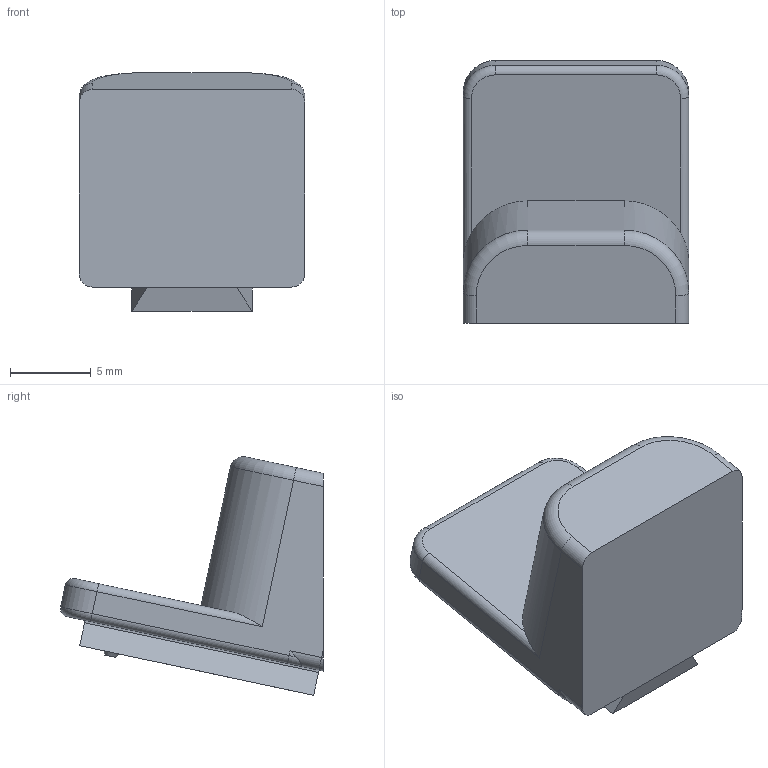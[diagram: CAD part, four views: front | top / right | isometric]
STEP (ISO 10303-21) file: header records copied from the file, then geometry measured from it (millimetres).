
FILE_DESCRIPTION(('Open CASCADE Model'),'2;1');
FILE_NAME('Open CASCADE Shape Model','2026-10-13T21:35:47',('Author'),( 'Open CASCADE'),'Open CASCADE STEP processor 7.9','Open CASCADE 7.9' ,'Unknown');
FILE_SCHEMA(('AUTOMOTIVE_DESIGN { 1 0 10303 214 1 1 1 1 }'));
Length unit declared in the file: millimetre
Products named in the file (1): Open CASCADE STEP translator 7.9 5
Bounding box: 14 x 16.32 x 14.82 mm (x, y, z)
Volume: 1538.7 mm3; surface area: 1019.3 mm2
Topology: 1 solids, 1 shells, 46 faces, 110 edges, 68 vertices
Faces by surface type: cylinder 19, plane 16, torus 10, cone 1
Entity records: 3230 total; most frequent: CARTESIAN_POINT 973, DIRECTION 436, LINE 240, VECTOR 240, ORIENTED_EDGE 220, PCURVE 220, DEFINITIONAL_REPRESENTATION 220, EDGE_CURVE 110
